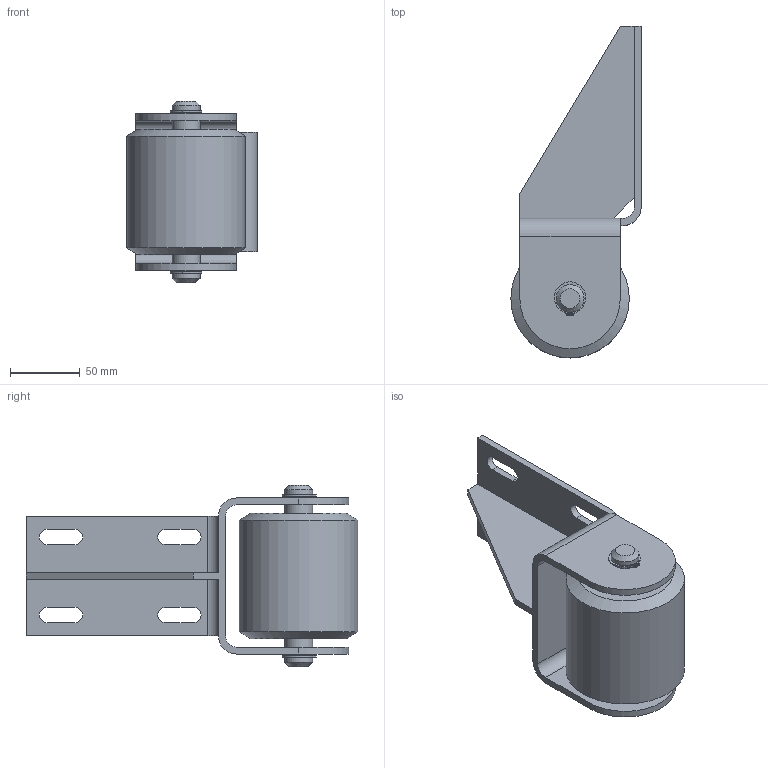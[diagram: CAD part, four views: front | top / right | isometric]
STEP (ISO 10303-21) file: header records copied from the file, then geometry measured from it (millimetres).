
FILE_DESCRIPTION(/* description */ (''),/* implementation_level */ '2;1');
FILE_NAME(/* name */ '2020TOMO-TELAIO.RULLO.A01.stp',/* time_stamp */ '2022-05-18T14:10:41+02:00',/* author */ (''),/* organization */ (''),/* preprocessor_version */ 'ST-DEVELOPER v18.102',/* originating_system */ 'SIEMENS PLM Software NX 2000',/* authorisation */ '');
FILE_SCHEMA (('AUTOMOTIVE_DESIGN { 1 0 10303 214 3 1 1 1 }'));
Length unit declared in the file: millimetre
Products named in the file (5): 2020TOMO-TELAIO.RULLO.se20; 2020TOMO-TELAIO.Rullo_Elesa_452795-D85xd20-9000N; 2020TOMO-TELAIO.RULLO.forcella; 2020TOMO-TELAIO.RULLO.perno; 2020TOMO-TELAIO.RULLO.ASSY
Assembly tree (5 placements, depth 3):
  2020TOMO-TELAIO.RULLO.ASSY
    2020TOMO-TELAIO.RULLO.forcella
    2020TOMO-TELAIO.RULLO.perno
      2020TOMO-TELAIO.RULLO.se20  x2
    2020TOMO-TELAIO.Rullo_Elesa_452795-D85xd20-9000N
Bounding box: 93.5 x 238 x 130 mm (x, y, z)
Volume: 697024.8 mm3; surface area: 128365.4 mm2
Topology: 5 solids, 5 shells, 95 faces, 246 edges, 163 vertices
Faces by surface type: plane 46, cylinder 45, cone 4
Full cylindrical faces by diameter (mm): 1 x4, 19 x2, 20 x6, 85 x1
Entity records: 2479 total; most frequent: DIRECTION 428, CARTESIAN_POINT 399, ORIENTED_EDGE 368, EDGE_CURVE 184, AXIS2_PLACEMENT_3D 159, VERTEX_POINT 130, EDGE_LOOP 116, LINE 110
